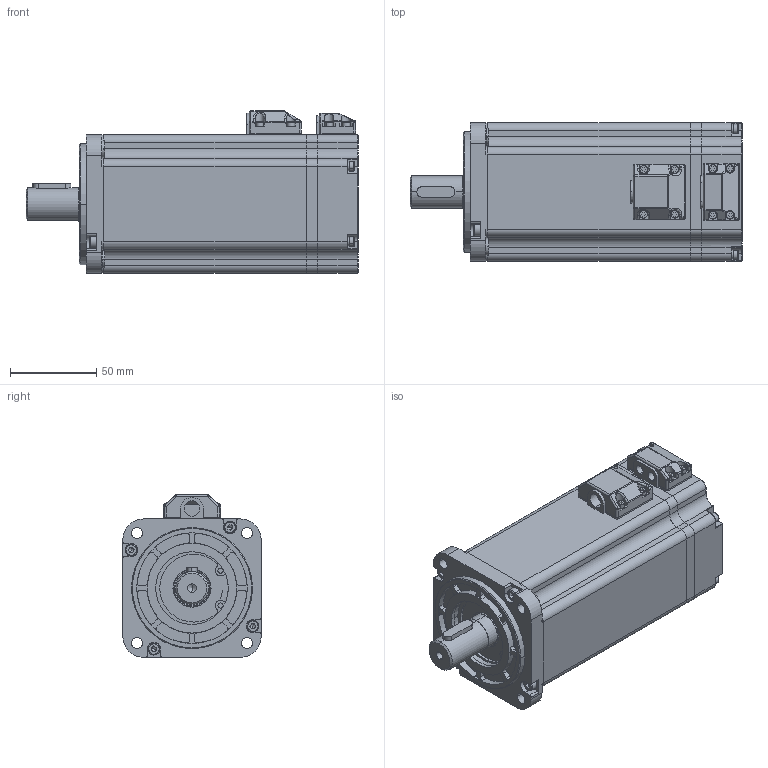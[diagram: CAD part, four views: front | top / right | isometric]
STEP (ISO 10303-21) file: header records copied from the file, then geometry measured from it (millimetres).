
FILE_DESCRIPTION (( 'STEP AP203' ), '1' );
FILE_NAME ('9.7446-SMC80S-0100-30QBK-5DSU.STEP', '2021-10-28T05:10:38', ( '' ), ( '' ), 'SwSTEP 2.0', 'SolidWorks 2018', '' );
FILE_SCHEMA (( 'CONFIG_CONTROL_DESIGN' ));
Length unit declared in the file: millimetre
Products named in the file (1): 9.7446-SMC80S-0100-30QBK-5DSU
Bounding box: 192 x 80 x 94 mm (x, y, z)
Volume: 421194.5 mm3; surface area: 242235.8 mm2
Topology: 71 solids, 71 shells, 3046 faces, 8166 edges, 5167 vertices
Faces by surface type: cylinder 1307, plane 1033, torus 222, sphere 202, bspline 144, cone 138
Entity records: 101932 total; most frequent: CARTESIAN_POINT 26148, DIRECTION 16154, ORIENTED_EDGE 15884, EDGE_CURVE 7942, AXIS2_PLACEMENT_3D 6336, VERTEX_POINT 5117, LINE 3482, VECTOR 3482
